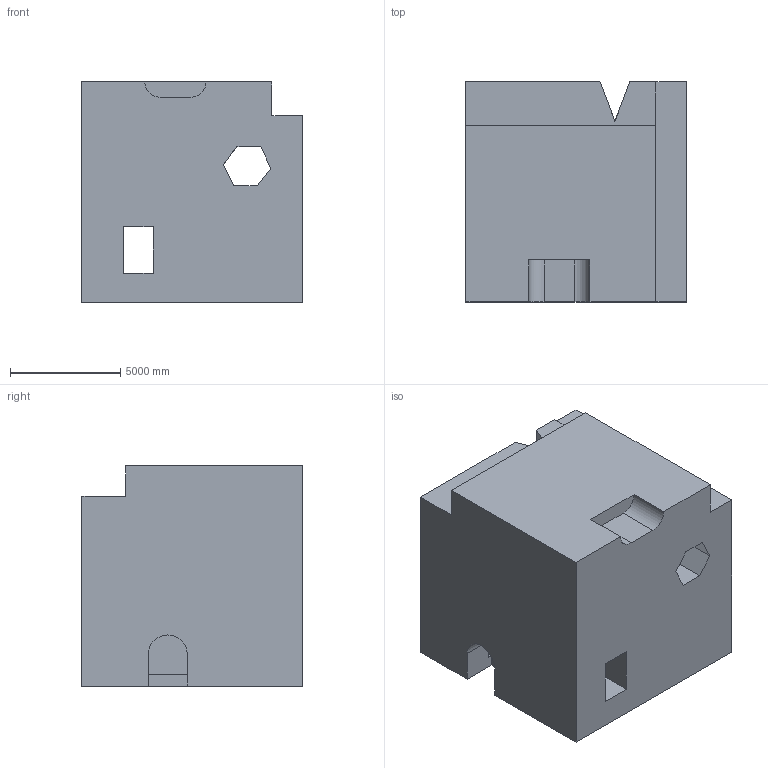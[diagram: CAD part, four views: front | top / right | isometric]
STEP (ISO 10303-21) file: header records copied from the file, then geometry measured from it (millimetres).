
FILE_DESCRIPTION (( 'STEP AP203' ), '1' );
FILE_NAME ('1855.STEP', '2022-08-19T13:35:06', ( 'user' ), ( '' ), 'SwSTEP 2.0', 'SolidWorks 2021', '' );
FILE_SCHEMA (( 'CONFIG_CONTROL_DESIGN' ));
Length unit declared in the file: centimetre
Products named in the file (1): 1855
Bounding box: 10000 x 10000 x 10000 mm (x, y, z)
Volume: 856494484417.5 mm3; surface area: 746690707.3 mm2
Topology: 1 solids, 1 shells, 41 faces, 126 edges, 84 vertices
Faces by surface type: plane 36, cylinder 5
Entity records: 1479 total; most frequent: ORIENTED_EDGE 252, CARTESIAN_POINT 252, DIRECTION 220, EDGE_CURVE 126, LINE 116, VECTOR 116, VERTEX_POINT 84, AXIS2_PLACEMENT_3D 52
